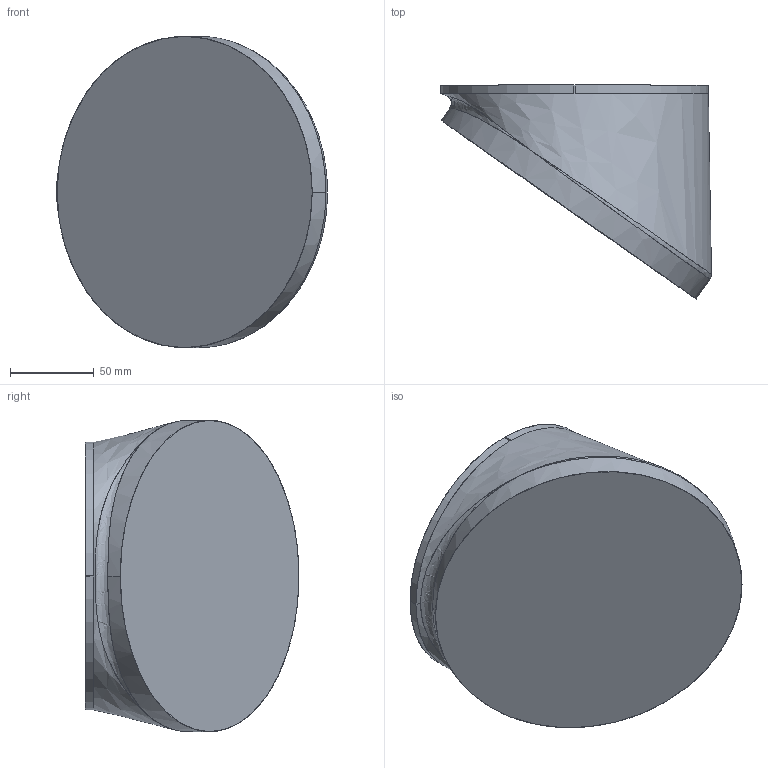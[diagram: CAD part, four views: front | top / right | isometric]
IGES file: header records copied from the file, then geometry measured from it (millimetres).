
Start section: SolidWorks IGES FILE using analytic representation for surfaces
Global section: file name: L:\Projekt\ABB Robotics\P685 PaintRobots2006 CAD-Models\CAD-Underlag IRB5500 TEMPO\SW2004\060711\Left\EngineSaveZip\iges\joints_links\IRB5500_12_T00F71B41V31H51_rev1_5.igs; native system: SolidWorks 2004 by SolidWorks Corporation; preprocessor: Version 5.3; author: joer; date: 060901.140454; units: millimetre
Bounding box: 161.89 x 127.76 x 186 mm (x, y, z)
Surface area: 88269.3 mm2 (no closed solid volume)
Topology: 0 solids, 0 shells, 15 faces, 278 edges, 274 vertices
Faces by surface type: bspline 10, revolution 5
